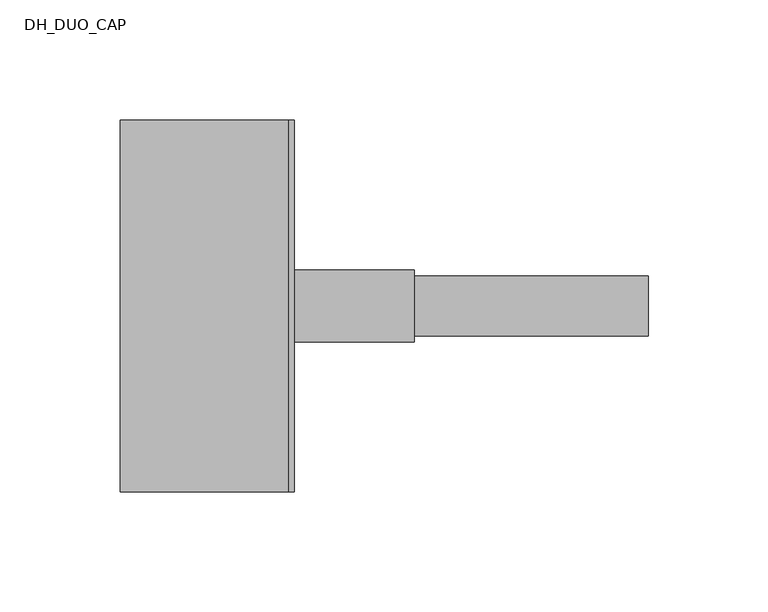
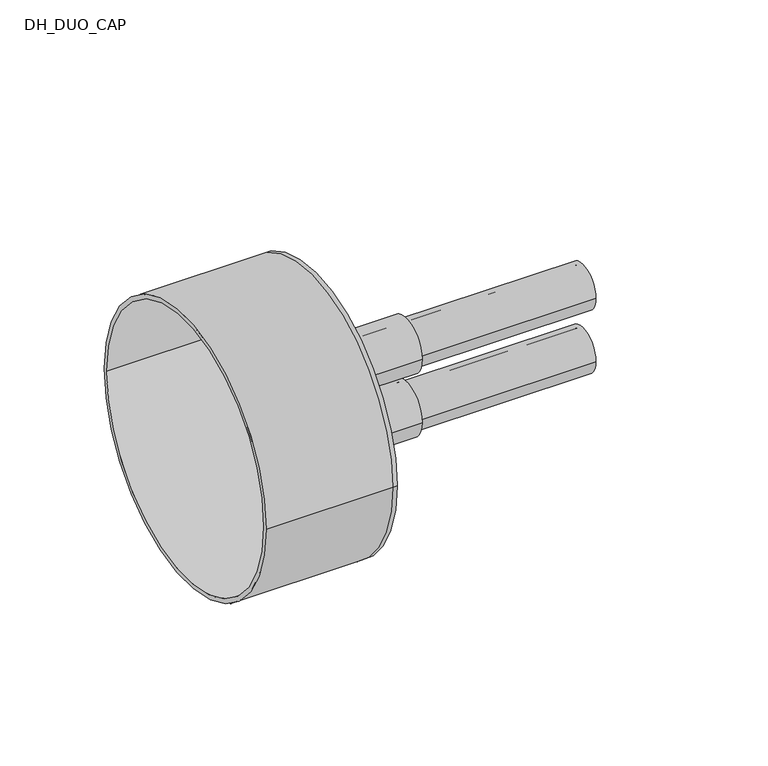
"""IFC4 building model written with IfcOpenShell, lengths in millimetres: pipe fitting geometry, DH_DUO_CAP : RAUVITHERM DUO 11 Heating - Rubber Cap."""

from ifc_helpers import new_model, si_unit, point, frame, frame_2d, origin, place, context, project, spatial, polyline, circle_curve, trimmed, segment, composite_curve, outline, extrude, source, transform, mapped, element, save
from ifc_brep_helpers import plane_surface, cylinder_surface, revolved_surface, advanced_brep


def dh_duo_cap_4b5125b2(model_context):
    return source(origin(), model_context, "Body", "SolidModel", [
        extrude(outline(composite_curve([segment(trimmed(circle_curve(frame_2d((0.0, -18.5)), 12.5), [point((-12.5, -18.5))], [point((12.5, -18.5))], False, "CARTESIAN"), True, "CONTINUOUS"), segment(trimmed(circle_curve(frame_2d((0.0, -18.5)), 12.5), [point((12.5, -18.5))], [point((-12.5, -18.5))], False, "CARTESIAN"), True, "CONTINUOUS")], self_intersect=False), holes=[composite_curve([segment(trimmed(circle_curve(frame_2d((0.0, -18.5)), 10.2), [point((-10.2, -18.5))], [point((10.2, -18.5))], True, "CARTESIAN"), True, "CONTINUOUS"), segment(trimmed(circle_curve(frame_2d((0.0, -18.5)), 10.2), [point((10.2, -18.5))], [point((-10.2, -18.5))], True, "CARTESIAN"), True, "CONTINUOUS")], self_intersect=False)]), frame((0.0, 0.0, 0.0), z_axis=(1.0, 0.0, 0.0), x_axis=(0.0, 1.0, 0.0)), (0.0, 0.0, 1.0), 150.0),
        extrude(outline(composite_curve([segment(trimmed(circle_curve(frame_2d((0.0, 18.5)), 12.5), [point((-12.5, 18.5))], [point((12.5, 18.5))], False, "CARTESIAN"), True, "CONTINUOUS"), segment(trimmed(circle_curve(frame_2d((0.0, 18.5)), 12.5), [point((12.5, 18.5))], [point((-12.5, 18.5))], False, "CARTESIAN"), True, "CONTINUOUS")], self_intersect=False), holes=[composite_curve([segment(trimmed(circle_curve(frame_2d((0.0, 18.5)), 10.2), [point((-10.2, 18.5))], [point((10.2, 18.5))], True, "CARTESIAN"), True, "CONTINUOUS"), segment(trimmed(circle_curve(frame_2d((0.0, 18.5)), 10.2), [point((10.2, 18.5))], [point((-10.2, 18.5))], True, "CARTESIAN"), True, "CONTINUOUS")], self_intersect=False)]), frame((0.0, 0.0, 0.0), z_axis=(1.0, 0.0, 0.0), x_axis=(0.0, 1.0, 0.0)), (0.0, 0.0, 1.0), 150.0),
        advanced_brep(
        [(-70.0, -77.5, 0.0), (-70.0, 77.5, 0.0), (-70.0, -75.0, 0.0), (-70.0, 75.0, 0.0), (0.0, -75.0, 0.0), (0.0, 75.0, 0.0), (0.0, -77.5, 0.0), (0.0, 77.5, 0.0), (0.0, 12.5, 18.5), (0.0, -12.5, 18.5), (0.0, 12.5, -18.5), (0.0, -12.5, -18.5), (2.5, -77.5, 0.0), (2.5, 77.5, 0.0), (2.5, -12.5, 18.5), (2.5, 12.5, 18.5), (2.5, -12.5, -18.5), (2.5, 12.5, -18.5)],
        [
            (0, 1, circle_curve(frame((-70.0, 0.0, 0.0), z_axis=(-1.0, 0.0, 0.0), x_axis=(0.0, 1.0, 0.0)), 77.5)),
            (1, 0, circle_curve(frame((-70.0, 0.0, 0.0), z_axis=(-1.0, 0.0, 0.0), x_axis=(0.0, 1.0, 0.0)), 77.5)),
            (2, 3, circle_curve(frame((-70.0, 0.0, 0.0), z_axis=(1.0, 0.0, 0.0), x_axis=(0.0, 1.0, 0.0)), 75.0)),
            (3, 2, circle_curve(frame((-70.0, 0.0, 0.0), z_axis=(1.0, 0.0, 0.0), x_axis=(0.0, 1.0, 0.0)), 75.0)),
            (2, 4),
            (4, 5, circle_curve(frame((0.0, 0.0, 0.0), z_axis=(1.0, 0.0, 0.0), x_axis=(0.0, 1.0, 0.0)), 75.0)),
            (5, 3),
            (5, 4, circle_curve(frame((0.0, 0.0, 0.0), z_axis=(1.0, 0.0, 0.0), x_axis=(0.0, 1.0, 0.0)), 75.0)),
            (0, 6),
            (6, 7, circle_curve(frame((0.0, 0.0, 0.0), z_axis=(-1.0, 0.0, 0.0), x_axis=(0.0, 1.0, 0.0)), 77.5)),
            (7, 1),
            (7, 6, circle_curve(frame((0.0, 0.0, 0.0), z_axis=(-1.0, 0.0, 0.0), x_axis=(0.0, 1.0, 0.0)), 77.5)),
            (8, 9, circle_curve(frame((0.0, 0.0, 18.5), z_axis=(1.0, 0.0, 0.0), x_axis=(0.0, 1.0, 0.0)), 12.5)),
            (9, 8, circle_curve(frame((0.0, 0.0, 18.5), z_axis=(1.0, 0.0, 0.0), x_axis=(0.0, 1.0, 0.0)), 12.5)),
            (10, 11, circle_curve(frame((0.0, 0.0, -18.5), z_axis=(1.0, 0.0, 0.0), x_axis=(0.0, 1.0, 0.0)), 12.5)),
            (11, 10, circle_curve(frame((0.0, 0.0, -18.5), z_axis=(1.0, 0.0, 0.0), x_axis=(0.0, 1.0, 0.0)), 12.5)),
            (12, 13, circle_curve(frame((2.5, 0.0, 0.0), z_axis=(1.0, 0.0, 0.0), x_axis=(0.0, 1.0, 0.0)), 77.5)),
            (13, 12, circle_curve(frame((2.5, 0.0, 0.0), z_axis=(1.0, 0.0, 0.0), x_axis=(0.0, 1.0, 0.0)), 77.5)),
            (14, 15, circle_curve(frame((2.5, 0.0, 18.5), z_axis=(-1.0, 0.0, 0.0), x_axis=(0.0, 1.0, 0.0)), 12.5)),
            (15, 14, circle_curve(frame((2.5, 0.0, 18.5), z_axis=(-1.0, 0.0, 0.0), x_axis=(0.0, 1.0, 0.0)), 12.5)),
            (16, 17, circle_curve(frame((2.5, 0.0, -18.5), z_axis=(-1.0, 0.0, 0.0), x_axis=(0.0, 1.0, 0.0)), 12.5)),
            (17, 16, circle_curve(frame((2.5, 0.0, -18.5), z_axis=(-1.0, 0.0, 0.0), x_axis=(0.0, 1.0, 0.0)), 12.5)),
            (13, 7),
            (6, 12),
            (8, 15),
            (14, 9),
            (10, 17),
            (16, 11),
        ],
        [
            plane_surface(frame((-70.0, 0.0, 0.0), z_axis=(-1.0, 0.0, 0.0), x_axis=(0.0, 0.0, 1.0))),
            revolved_surface(polyline([(0.0, 75.0, 0.0), (-70.0, 75.0, 0.0)]), (-70.0, 0.0, 0.0), (1.0, 0.0, 0.0)),
            cylinder_surface(frame((-70.0, 0.0, 0.0), z_axis=(-1.0, 0.0, 0.0), x_axis=(0.0, 1.0, 0.0)), 77.5),
            plane_surface(frame((0.0, 0.0, 0.0), z_axis=(-1.0, 0.0, 0.0), x_axis=(0.0, 0.0, 1.0))),
            plane_surface(frame((2.5, 0.0, 0.0), z_axis=(1.0, 0.0, 0.0), x_axis=(0.0, 0.0, 1.0))),
            cylinder_surface(frame((0.0, 0.0, 0.0), z_axis=(-1.0, 0.0, 0.0), x_axis=(0.0, 1.0, 0.0)), 77.5),
            revolved_surface(polyline([(0.0, 12.5, 18.5), (2.5, 12.5, 18.5)]), (0.0, 0.0, 18.5), (-1.0, 0.0, 0.0)),
            revolved_surface(polyline([(0.0, 12.5, -18.5), (2.5, 12.5, -18.5)]), (0.0, 0.0, -18.5), (-1.0, 0.0, 0.0)),
        ],
        [
            (0, [[1, 2], [3, 4]]),
            (1, [[-3, 5, 6, 7]]),
            (1, [[-4, -7, 8, -5]]),
            (2, [[-1, 9, 10, 11]]),
            (2, [[-2, -11, 12, -9]]),
            (3, [[-6, -8], [13, 14], [15, 16]]),
            (4, [[17, 18], [19, 20], [21, 22]]),
            (5, [[-18, 23, -10, 24]]),
            (5, [[-17, -24, -12, -23]]),
            (6, [[25, -19, 26, -13]]),
            (6, [[-25, -14, -26, -20]]),
            (7, [[27, -21, 28, -15]]),
            (7, [[-27, -16, -28, -22]]),
        ],
    ),
        extrude(outline(composite_curve([segment(trimmed(circle_curve(frame_2d((0.0, -18.5)), 15.0), [point((-15.0, -18.5))], [point((15.0, -18.5))], False, "CARTESIAN"), True, "CONTINUOUS"), segment(trimmed(circle_curve(frame_2d((0.0, -18.5)), 15.0), [point((15.0, -18.5))], [point((-15.0, -18.5))], False, "CARTESIAN"), True, "CONTINUOUS")], self_intersect=False), holes=[composite_curve([segment(trimmed(circle_curve(frame_2d((0.0, -18.5)), 12.5), [point((-12.5, -18.5))], [point((12.5, -18.5))], True, "CARTESIAN"), True, "CONTINUOUS"), segment(trimmed(circle_curve(frame_2d((0.0, -18.5)), 12.5), [point((12.5, -18.5))], [point((-12.5, -18.5))], True, "CARTESIAN"), True, "CONTINUOUS")], self_intersect=False)]), frame((2.5, 0.0, 0.0), z_axis=(1.0, 0.0, 0.0), x_axis=(0.0, 1.0, 0.0)), (0.0, 0.0, 1.0), 50.0),
        extrude(outline(composite_curve([segment(trimmed(circle_curve(frame_2d((0.0, 18.5)), 15.0), [point((-15.0, 18.5))], [point((15.0, 18.5))], False, "CARTESIAN"), True, "CONTINUOUS"), segment(trimmed(circle_curve(frame_2d((0.0, 18.5)), 15.0), [point((15.0, 18.5))], [point((-15.0, 18.5))], False, "CARTESIAN"), True, "CONTINUOUS")], self_intersect=False), holes=[composite_curve([segment(trimmed(circle_curve(frame_2d((0.0, 18.5)), 12.5), [point((-12.5, 18.5))], [point((12.5, 18.5))], True, "CARTESIAN"), True, "CONTINUOUS"), segment(trimmed(circle_curve(frame_2d((0.0, 18.5)), 12.5), [point((12.5, 18.5))], [point((-12.5, 18.5))], True, "CARTESIAN"), True, "CONTINUOUS")], self_intersect=False)]), frame((2.5, 0.0, 0.0), z_axis=(1.0, 0.0, 0.0), x_axis=(0.0, 1.0, 0.0)), (0.0, 0.0, 1.0), 50.0),
    ])


if __name__ == "__main__":
    model = new_model("IFC4")
    model_context = context("Model", 3, world=origin())
    ifc_project = project(units=[si_unit("LENGTHUNIT", "METRE", prefix="MILLI")], contexts=[model_context])
    site = spatial("IfcSite", under=ifc_project)
    building = spatial("IfcBuilding", under=site)
    placement = place(None, origin())
    dh_duo_cap_shape = dh_duo_cap_4b5125b2(model_context)
    element("IfcPipeFitting", 1, ObjectType="DH_DUO_CAP : RAUVITHERM DUO 11 Heating - Rubber Cap", at=placement, inside=building, context=model_context, shape_type="MappedRepresentation", body=[
        mapped(dh_duo_cap_shape, transform((0.0, 0.0, 0.0), x_axis=(1.0, 0.0, 0.0), y_axis=(0.0, 1.0, 0.0), z_axis=(0.0, 0.0, 1.0))),
    ])
    save(model, "model.ifc")
